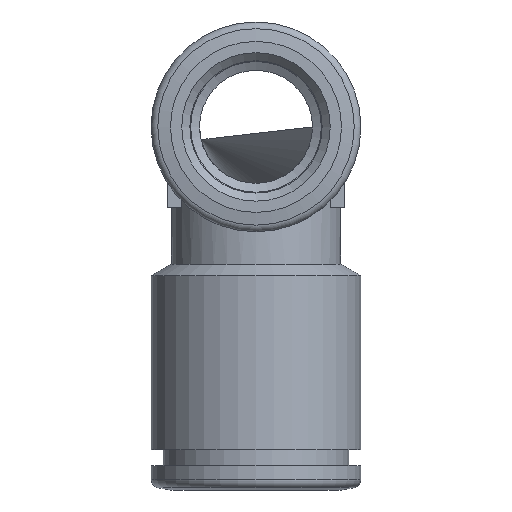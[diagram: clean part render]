
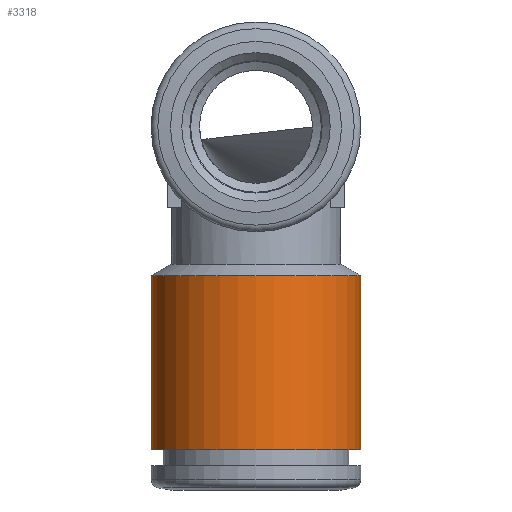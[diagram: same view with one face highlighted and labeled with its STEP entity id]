
A CAD part, left-side view. The second image highlights one B-rep face of the part: STEP entity #3318.
In plain terms, the highlighted cylindrical face has radius 6.5 mm (diameter 13 mm), a full revolution.
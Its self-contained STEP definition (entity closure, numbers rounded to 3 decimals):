
#1557=ORIENTED_EDGE('',*,*,#1947,.T.);
#1558=ORIENTED_EDGE('',*,*,#1948,.F.);
#1735=CIRCLE('',#3144,6.5);
#1736=CIRCLE('',#3146,6.5);
#1833=VERTEX_POINT('',#2890);
#1834=VERTEX_POINT('',#2893);
#1947=EDGE_CURVE('',#1833,#1833,#1735,.T.);
#1948=EDGE_CURVE('',#1834,#1834,#1736,.T.);
#2072=EDGE_LOOP('',(#1557));
#2073=EDGE_LOOP('',(#1558));
#2238=FACE_BOUND('',#2072,.T.);
#2239=FACE_BOUND('',#2073,.T.);
#2502=DIRECTION('',(0.,1.,0.));
#2503=DIRECTION('',(6.5,0.,0.));
#2504=DIRECTION('',(0.,1.,0.));
#2505=DIRECTION('',(1.,0.,0.));
#2506=DIRECTION('',(0.,1.,0.));
#2507=DIRECTION('',(6.5,0.,0.));
#2890=CARTESIAN_POINT('',(6.5,9.222,0.));
#2891=CARTESIAN_POINT('',(0.,9.222,0.));
#2892=CARTESIAN_POINT('',(0.,9.222,0.));
#2893=CARTESIAN_POINT('',(6.5,20.,0.));
#2894=CARTESIAN_POINT('',(0.,20.,0.));
#3144=AXIS2_PLACEMENT_3D('',#2891,#2502,#2503);
#3145=AXIS2_PLACEMENT_3D('',#2892,#2504,#2505);
#3146=AXIS2_PLACEMENT_3D('',#2894,#2506,#2507);
#3269=CYLINDRICAL_SURFACE('',#3145,6.5);
#3318=ADVANCED_FACE('',(#2238,#2239),#3269,.T.);
